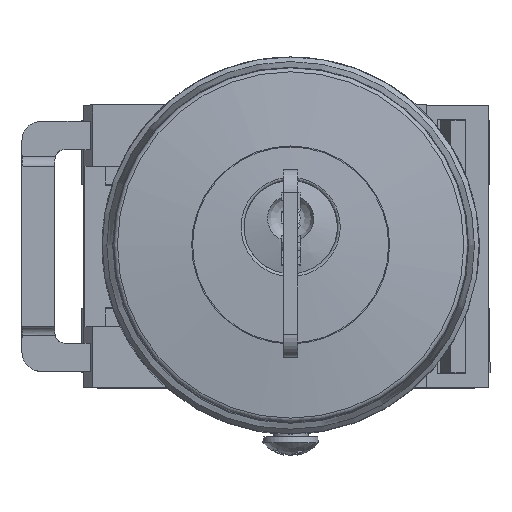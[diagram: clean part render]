
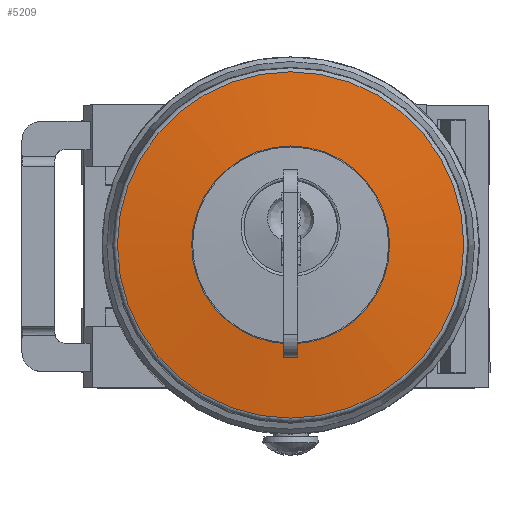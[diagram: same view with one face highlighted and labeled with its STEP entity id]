
A CAD part, top view. The second image highlights one B-rep face of the part: STEP entity #5209.
In plain terms, the highlighted spherical face has radius 126.929 mm.
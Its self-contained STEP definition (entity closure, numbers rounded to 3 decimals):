
#5178=CARTESIAN_POINT('',(-18.372,0.,26.263));
#5179=VERTEX_POINT('',#5178);
#5180=CARTESIAN_POINT('',(0.,0.,26.263));
#5181=DIRECTION('',(0.0,0.0,-1.0));
#5182=DIRECTION('',(1.0,0.0,0.0));
#5183=AXIS2_PLACEMENT_3D('',#5180,#5181,#5182);
#5184=CIRCLE('',#5183,18.372);
#5185=EDGE_CURVE('',#5179,#5179,#5184,.T.);
#5190=CARTESIAN_POINT('',(0.,0.,-99.329));
#5191=DIRECTION('',(0.0,0.0,1.0));
#5192=DIRECTION('',(1.0,0.0,0.0));
#5193=AXIS2_PLACEMENT_3D('',#5190,#5191,#5192);
#5194=SPHERICAL_SURFACE('',#5193,126.929);
#5195=CARTESIAN_POINT('',(0.,-10.5,27.165));
#5196=VERTEX_POINT('',#5195);
#5197=CARTESIAN_POINT('',(0.,0.,27.165));
#5198=DIRECTION('',(0.0,0.0,-1.0));
#5199=DIRECTION('',(0.0,-1.0,0.0));
#5200=AXIS2_PLACEMENT_3D('',#5197,#5198,#5199);
#5201=CIRCLE('',#5200,10.5);
#5202=EDGE_CURVE('',#5196,#5196,#5201,.T.);
#5203=ORIENTED_EDGE('',*,*,#5202,.T.);
#5204=EDGE_LOOP('',(#5203));
#5205=FACE_OUTER_BOUND('',#5204,.T.);
#5206=ORIENTED_EDGE('',*,*,#5185,.F.);
#5207=EDGE_LOOP('',(#5206));
#5208=FACE_BOUND('',#5207,.T.);
#5209=ADVANCED_FACE('',(#5205,#5208),#5194,.T.);
